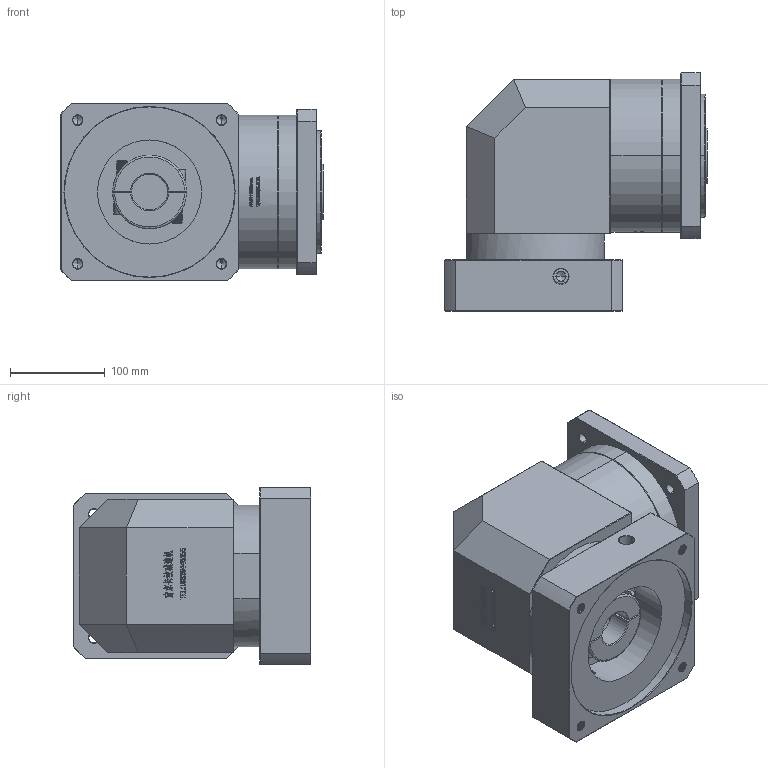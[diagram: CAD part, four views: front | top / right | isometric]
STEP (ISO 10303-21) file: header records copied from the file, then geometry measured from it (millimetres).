
FILE_DESCRIPTION (( 'STEP AP214' ), '1' );
FILE_NAME ('ZFR160A-K35-L1-38-180-215-M12.step', '2023-03-22T11:48:02', ( '' ), ( '' ), 'SwSTEP 2.0', 'SolidWorks 2016', '' );
FILE_SCHEMA (( 'AUTOMOTIVE_DESIGN' ));
Length unit declared in the file: millimetre
Products named in the file (1): ZFR160A-K35-L1-38-180-215-M12
Bounding box: 277.7 x 251.5 x 188 mm (x, y, z)
Volume: 7097290.5 mm3; surface area: 475613.5 mm2
Topology: 6 solids, 6 shells, 2441 faces, 6416 edges, 4128 vertices
Faces by surface type: plane 1266, bspline 490, cylinder 364, cone 301, torus 20
Entity records: 135163 total; most frequent: CARTESIAN_POINT 52186, ORIENTED_EDGE 12776, DIRECTION 9742, EDGE_CURVE 6388, VERTEX_POINT 4128, VECTOR 4084, LINE 4084, AXIS2_PLACEMENT_3D 2829
